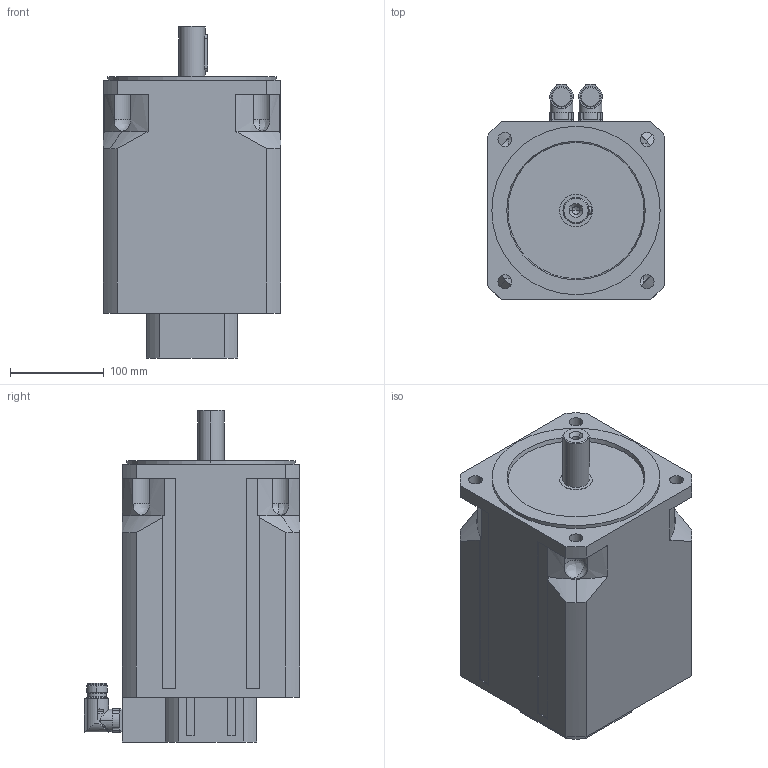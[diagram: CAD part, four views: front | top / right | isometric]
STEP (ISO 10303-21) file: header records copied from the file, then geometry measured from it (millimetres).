
FILE_DESCRIPTION(('STEP AP203'),'2;1');
FILE_NAME('MT7-4000_X.stp','2006-08-28T20:57:24',(''),(''),'2005.2.102','THINKDESIGN','');
FILE_SCHEMA(('CONFIG_CONTROL_DESIGN'));
Length unit declared in the file: millimetre
Bounding box: 190 x 230.5 x 355 mm (x, y, z)
Volume: 9354884.3 mm3; surface area: 314062.4 mm2
Topology: 3 solids, 3 shells, 275 faces, 749 edges, 481 vertices
Faces by surface type: cylinder 120, plane 107, bspline 48
Full cylindrical faces by diameter (mm): 20 x2
Entity records: 9842 total; most frequent: CARTESIAN_POINT 2891, ORIENTED_EDGE 1478, DIRECTION 1427, EDGE_CURVE 739, AXIS2_PLACEMENT_3D 539, VERTEX_POINT 481, VECTOR 349, LINE 349
